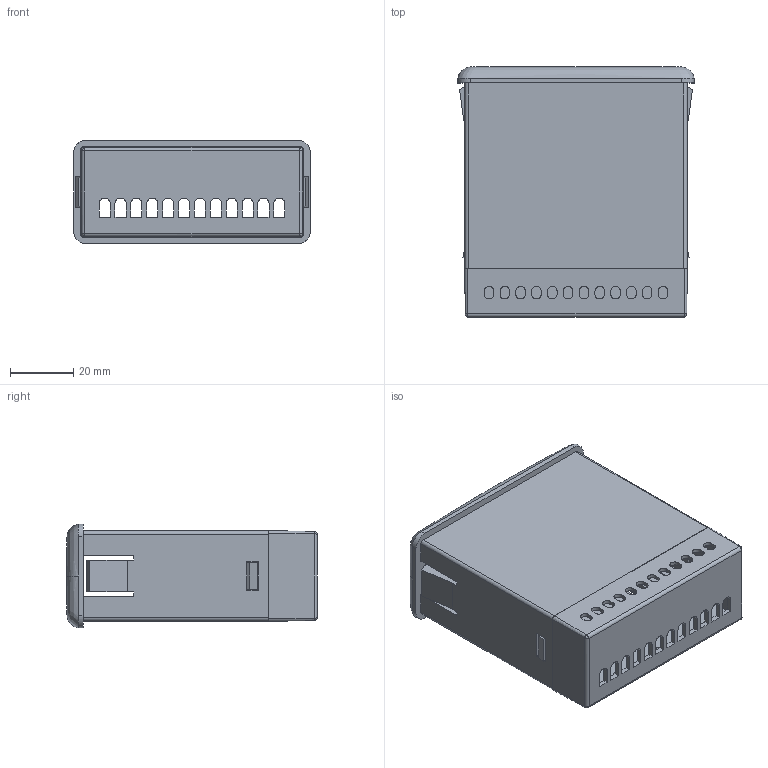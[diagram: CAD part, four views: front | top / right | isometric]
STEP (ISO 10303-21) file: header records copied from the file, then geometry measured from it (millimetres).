
FILE_DESCRIPTION (( 'STEP AP203' ), '1' );
FILE_NAME ('PT-100A_assembly.STEP', '2019-02-15T14:53:28', ( '' ), ( '' ), 'SwSTEP 2.0', 'SolidWorks 2018', '' );
FILE_SCHEMA (( 'CONFIG_CONTROL_DESIGN' ));
Length unit declared in the file: millimetre
Products named in the file (3): PT-100A_body; PT-100A_assembly; PT-100A_base
Assembly tree (2 placements, depth 2):
  PT-100A_assembly
    PT-100A_body
    PT-100A_base
Bounding box: 74.6 x 78.95 x 32.7 mm (x, y, z)
Volume: 26450.9 mm3; surface area: 37091.2 mm2
Topology: 2 solids, 2 shells, 331 faces, 1008 edges, 676 vertices
Faces by surface type: plane 231, cylinder 76, cone 14, bspline 10
Entity records: 15685 total; most frequent: CARTESIAN_POINT 6408, ORIENTED_EDGE 2008, DIRECTION 1664, EDGE_CURVE 1004, LINE 772, VECTOR 772, VERTEX_POINT 676, AXIS2_PLACEMENT_3D 446
